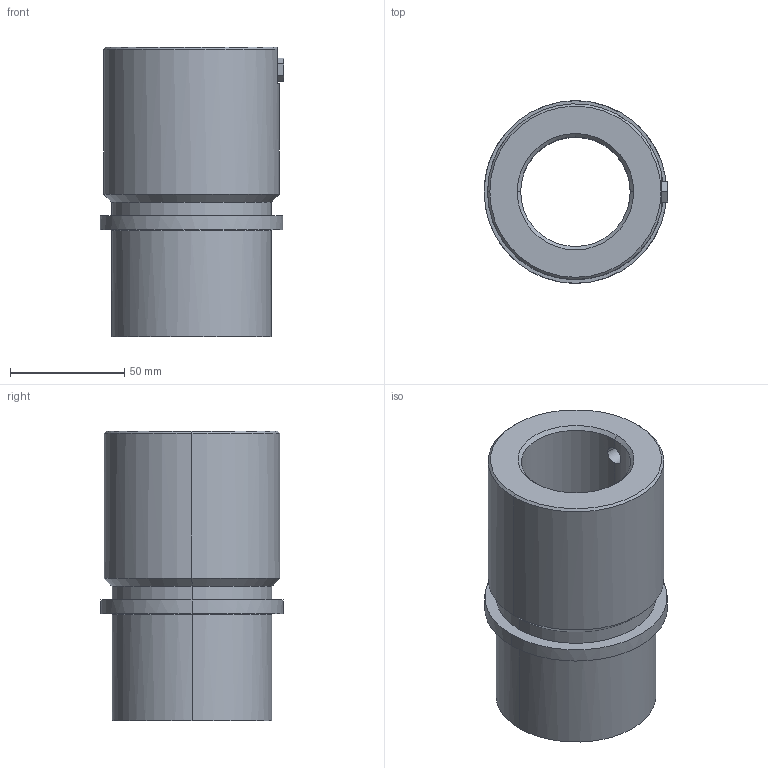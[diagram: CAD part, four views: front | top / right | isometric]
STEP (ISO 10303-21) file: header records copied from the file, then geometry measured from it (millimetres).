
FILE_DESCRIPTION(('CATIA V5 STEP Exchange'),'2;1');
FILE_NAME('C:\Users\Utente\Desktop\IO LAVORO\3D X SITO CF\X SITO\742\742-48.stp','2021-01-23T10:42:40+00:00',('none'),('none'),'CATIA Version 5 Release 20 GA (IN-10)','CATIA V5 STEP AP203','none');
FILE_SCHEMA(('CONFIG_CONTROL_DESIGN'));
Length unit declared in the file: millimetre
Products named in the file (1): 742-48
Assembly tree (1 placements, depth 2):
  742-48
    #58
Bounding box: 80.5 x 80 x 127 mm (x, y, z)
Volume: 318405.4 mm3; surface area: 56574.5 mm2
Topology: 1 solids, 1 shells, 38 faces, 89 edges, 56 vertices
Faces by surface type: plane 14, cylinder 12, cone 8, torus 4
Entity records: 1261 total; most frequent: CARTESIAN_POINT 353, ORIENTED_EDGE 178, DIRECTION 155, EDGE_CURVE 89, AXIS2_PLACEMENT_3D 74, VERTEX_POINT 56, EDGE_LOOP 43, VECTOR 41
